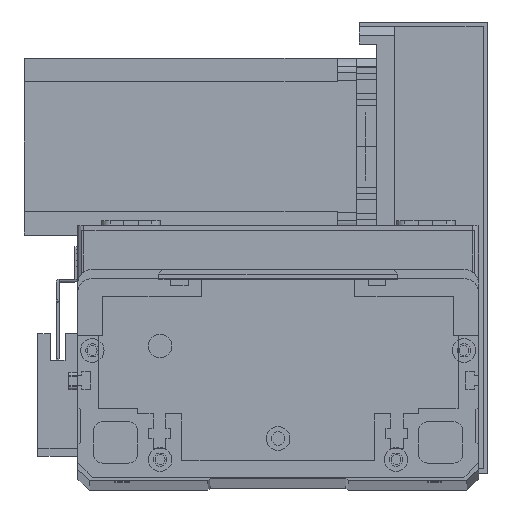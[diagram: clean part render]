
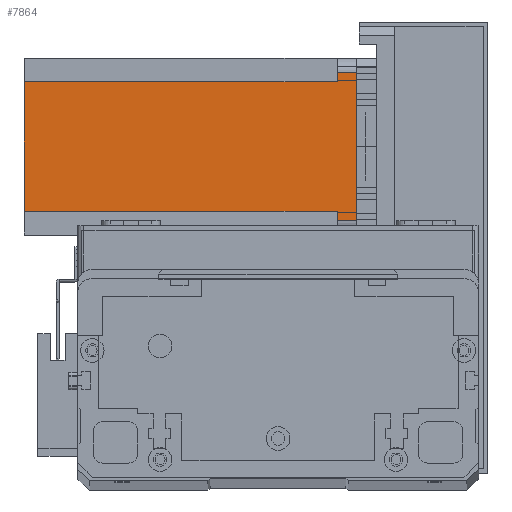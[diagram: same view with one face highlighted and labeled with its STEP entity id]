
A CAD part, top view. The second image highlights one B-rep face of the part: STEP entity #7864.
In plain terms, the highlighted planar face has unit normal (0, 0, 1) as drawn and (0, 1, 0) by its records, which use the part's own axes.
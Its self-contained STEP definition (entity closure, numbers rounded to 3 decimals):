
#694 = ORIENTED_EDGE ( 'NONE', *, *, #28410, .F. ) ;
#760 = CARTESIAN_POINT ( 'NONE',  ( 0., 60., 0. ) ) ;
#806 = DIRECTION ( 'NONE',  ( 0., 0., 1. ) ) ;
#823 = CARTESIAN_POINT ( 'NONE',  ( 52., 60., -6.5 ) ) ;
#1356 = ORIENTED_EDGE ( 'NONE', *, *, #16190, .F. ) ;
#1618 = AXIS2_PLACEMENT_3D ( 'NONE', #15137, #14999, #14992 ) ;
#2174 = CARTESIAN_POINT ( 'NONE',  ( 55., 60., 0. ) ) ;
#2835 = DIRECTION ( 'NONE',  ( 0., 0., -1. ) ) ;
#3243 = DIRECTION ( 'NONE',  ( 1., 0., 0. ) ) ;
#3320 = ORIENTED_EDGE ( 'NONE', *, *, #6595, .T. ) ;
#3346 = VERTEX_POINT ( 'NONE', #14200 ) ;
#4173 = ORIENTED_EDGE ( 'NONE', *, *, #21931, .T. ) ;
#4336 = VECTOR ( 'NONE', #25797, 1000. ) ;
#4512 = LINE ( 'NONE', #24978, #10076 ) ;
#5544 = ORIENTED_EDGE ( 'NONE', *, *, #18116, .F. ) ;
#5699 = EDGE_CURVE ( 'NONE', #11943, #14190, #12117, .T. ) ;
#6310 = EDGE_CURVE ( 'NONE', #26148, #11943, #24577, .T. ) ;
#6595 = EDGE_CURVE ( 'NONE', #3346, #26245, #24197, .T. ) ;
#6897 = VECTOR ( 'NONE', #29660, 1000. ) ;
#7650 = CARTESIAN_POINT ( 'NONE',  ( 5., 60., -6.5 ) ) ;
#7864 = ADVANCED_FACE ( 'NONE', ( #25189 ), #15175, .T. ) ;
#10014 = CARTESIAN_POINT ( 'NONE',  ( 8., 60., -112.5 ) ) ;
#10076 = VECTOR ( 'NONE', #18166, 1000. ) ;
#11385 = VERTEX_POINT ( 'NONE', #14342 ) ;
#11868 = CARTESIAN_POINT ( 'NONE',  ( 8., 60., -6.5 ) ) ;
#11943 = VERTEX_POINT ( 'NONE', #7650 ) ;
#12117 = LINE ( 'NONE', #26092, #4336 ) ;
#13341 = CARTESIAN_POINT ( 'NONE',  ( 55., 60., -6.5 ) ) ;
#14190 = VERTEX_POINT ( 'NONE', #17673 ) ;
#14200 = CARTESIAN_POINT ( 'NONE',  ( 52., 60., -112.5 ) ) ;
#14342 = CARTESIAN_POINT ( 'NONE',  ( 52., 60., -6.5 ) ) ;
#14992 = DIRECTION ( 'NONE',  ( 0., 0., 1. ) ) ;
#14999 = DIRECTION ( 'NONE',  ( 0., 1., 0. ) ) ;
#15137 = CARTESIAN_POINT ( 'NONE',  ( 0., 60., -112.5 ) ) ;
#15175 = PLANE ( 'NONE',  #1618 ) ;
#16190 = EDGE_CURVE ( 'NONE', #26148, #26245, #24124, .T. ) ;
#17415 = VECTOR ( 'NONE', #2835, 1000. ) ;
#17551 = ORIENTED_EDGE ( 'NONE', *, *, #6310, .T. ) ;
#17673 = CARTESIAN_POINT ( 'NONE',  ( 5., 60., 0. ) ) ;
#18096 = EDGE_LOOP ( 'NONE', ( #694, #4173, #29917, #5544, #3320, #1356, #17551, #25274 ) ) ;
#18116 = EDGE_CURVE ( 'NONE', #3346, #11385, #19410, .T. ) ;
#18166 = DIRECTION ( 'NONE',  ( 0., 0., -1. ) ) ;
#19277 = DIRECTION ( 'NONE',  ( -1., 0., 0. ) ) ;
#19410 = LINE ( 'NONE', #24025, #24735 ) ;
#19507 = DIRECTION ( 'NONE',  ( -1., 0., 0. ) ) ;
#19717 = CARTESIAN_POINT ( 'NONE',  ( 0., 60., -112.5 ) ) ;
#21429 = CARTESIAN_POINT ( 'NONE',  ( 8., 60., -112.5 ) ) ;
#21448 = VERTEX_POINT ( 'NONE', #2174 ) ;
#21485 = VECTOR ( 'NONE', #3243, 1000. ) ;
#21931 = EDGE_CURVE ( 'NONE', #21448, #25394, #4512, .T. ) ;
#22937 = EDGE_CURVE ( 'NONE', #11385, #25394, #27557, .T. ) ;
#23611 = VECTOR ( 'NONE', #19507, 1000. ) ;
#24025 = CARTESIAN_POINT ( 'NONE',  ( 52., 60., -112.5 ) ) ;
#24124 = LINE ( 'NONE', #21429, #17415 ) ;
#24197 = LINE ( 'NONE', #19717, #28809 ) ;
#24577 = LINE ( 'NONE', #29564, #6897 ) ;
#24735 = VECTOR ( 'NONE', #806, 1000. ) ;
#24978 = CARTESIAN_POINT ( 'NONE',  ( 55., 60., -112.5 ) ) ;
#25189 = FACE_OUTER_BOUND ( 'NONE', #18096, .T. ) ;
#25274 = ORIENTED_EDGE ( 'NONE', *, *, #5699, .T. ) ;
#25394 = VERTEX_POINT ( 'NONE', #13341 ) ;
#25797 = DIRECTION ( 'NONE',  ( 0., 0., 1. ) ) ;
#26092 = CARTESIAN_POINT ( 'NONE',  ( 5., 60., -112.5 ) ) ;
#26148 = VERTEX_POINT ( 'NONE', #11868 ) ;
#26245 = VERTEX_POINT ( 'NONE', #10014 ) ;
#27557 = LINE ( 'NONE', #823, #21485 ) ;
#28410 = EDGE_CURVE ( 'NONE', #21448, #14190, #29633, .T. ) ;
#28809 = VECTOR ( 'NONE', #19277, 1000. ) ;
#29564 = CARTESIAN_POINT ( 'NONE',  ( 8., 60., -6.5 ) ) ;
#29633 = LINE ( 'NONE', #760, #23611 ) ;
#29660 = DIRECTION ( 'NONE',  ( -1., 0., 0. ) ) ;
#29917 = ORIENTED_EDGE ( 'NONE', *, *, #22937, .F. ) ;
